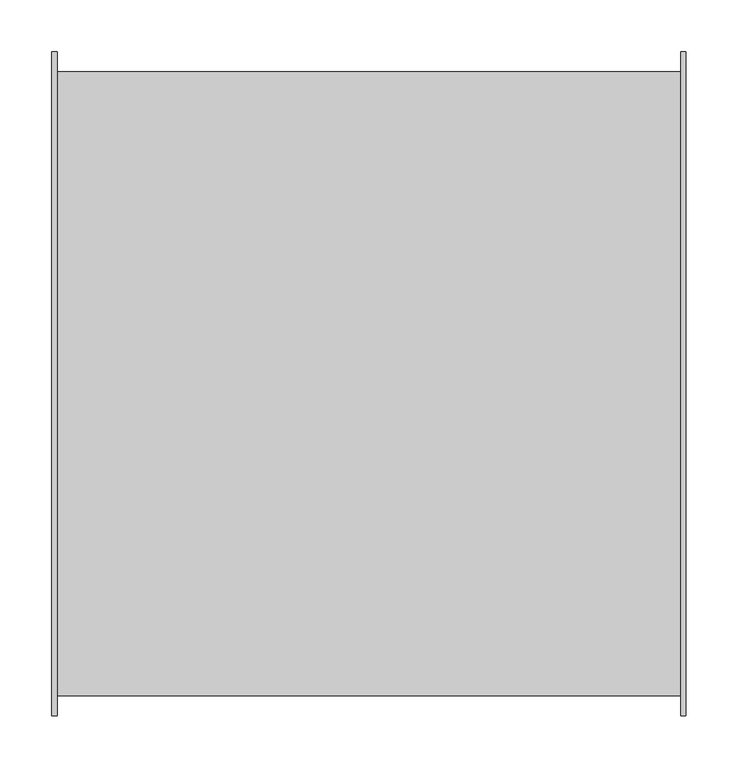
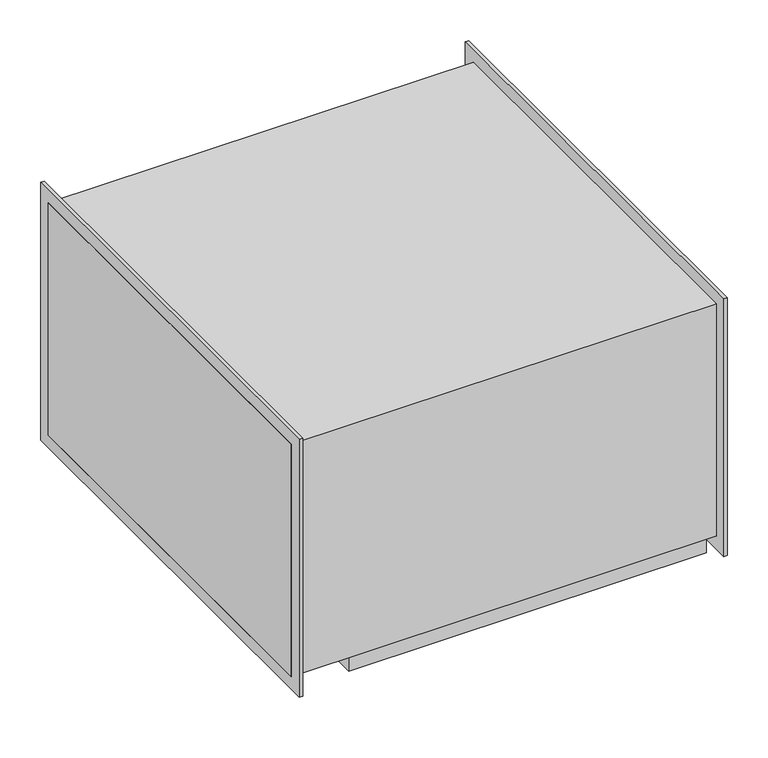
"""IFC4 building model written with IfcOpenShell, lengths in millimetres: unitary equipment geometry, VE-Wentylator-ParaForma-Harmann-DRB-Nawiewny : 060/35/3000S."""

from ifc_helpers import new_model, si_unit, point, frame, frame_2d, origin, place, context, project, spatial, polyline, circle_curve, trimmed, segment, composite_curve, outline, extrude, faceted_brep, source, transform, mapped, element, save
from ifc_brep_helpers import plane_surface, revolved_surface, advanced_brep


def unitary_equipment_a265e7f2(model_context):
    return source(origin(), model_context, "Body", "SolidModel", [
        faceted_brep([(-213.5, -282.9, -209.0), (-213.5, -282.9, -175.0), (-213.5, 197.1, -175.0), (-213.5, 197.1, -209.0), (295.5, -282.9, -209.0), (295.5, 197.1, -209.0), (295.5, 197.1, -175.0), (295.5, -282.9, -175.0), (-208.5, 192.1, -209.0), (-208.5, -277.9, -209.0), (290.5, -277.9, -209.0), (290.5, 192.1, -209.0), (-208.5, 192.1, -175.0), (-208.5, -277.9, -175.0), (290.5, -277.9, -175.0), (290.5, 192.1, -175.0), (-305.0, -300.0, 175.0), (-305.0, -300.0, -175.0), (305.0, -300.0, -175.0), (305.0, -300.0, 175.0), (-305.0, 300.0, 175.0), (305.0, 300.0, 175.0), (-305.0, 300.0, -175.0), (305.0, 300.0, -175.0)], [[[0, 1, 2, 3]], [[4, 5, 6, 7]], [[1, 0, 4, 7]], [[3, 2, 6, 5]], [[0, 3, 5, 4], [8, 9, 10, 11]], [[8, 12, 13, 9]], [[10, 14, 15, 11]], [[9, 13, 14, 10]], [[12, 8, 11, 15]], [[16, 17, 18, 19]], [[20, 16, 19, 21]], [[22, 20, 21, 23]], [[13, 12, 15, 14]], [[18, 17, 22, 23], [2, 1, 7, 6]], [[17, 16, 20, 22]], [[18, 23, 21, 19]]]),
        extrude(outline(polyline([(-319.2, -194.2), (-319.2, 194.2), (319.2, 194.2), (319.2, -194.2), (-319.2, -194.2)]), holes=[polyline([(-300.0, -175.0), (300.0, -175.0), (300.0, 175.0), (-300.0, 175.0), (-300.0, -175.0)])]), frame((300.0, 0.0, 0.0), z_axis=(1.0, 0.0, 0.0), x_axis=(0.0, 1.0, 0.0)), (0.0, 0.0, 1.0), 5.0),
        extrude(outline(polyline([(-319.2, -194.2), (-319.2, 194.2), (319.2, 194.2), (319.2, -194.2), (-319.2, -194.2)]), holes=[polyline([(-300.0, -175.0), (300.0, -175.0), (300.0, 175.0), (-300.0, 175.0), (-300.0, -175.0)])]), frame((-305.0, 0.0, 0.0), z_axis=(1.0, 0.0, 0.0), x_axis=(0.0, 1.0, 0.0)), (0.0, 0.0, 1.0), 5.0),
        extrude(outline(composite_curve([segment(polyline([(77.5, 77.4), (-22.5, 77.4)]), True, "CONTINUOUS"), segment(trimmed(circle_curve(frame_2d((-22.5, 82.4)), 5.0), [point((-22.5, 77.4))], [point((-27.5, 82.4))], False, "CARTESIAN"), True, "CONTINUOUS"), segment(polyline([(-27.5, 82.4), (-27.5, 167.4)]), True, "CONTINUOUS"), segment(trimmed(circle_curve(frame_2d((-22.5, 167.4)), 5.0), [point((-27.5, 167.4))], [point((-22.5, 172.4))], False, "CARTESIAN"), True, "CONTINUOUS"), segment(polyline([(-22.5, 172.4), (77.5, 172.4)]), True, "CONTINUOUS"), segment(trimmed(circle_curve(frame_2d((77.5, 167.4)), 5.0), [point((77.5, 172.4))], [point((82.5, 167.4))], False, "CARTESIAN"), True, "CONTINUOUS"), segment(polyline([(82.5, 167.4), (82.5, 82.4)]), True, "CONTINUOUS"), segment(trimmed(circle_curve(frame_2d((77.5, 82.4)), 5.0), [point((82.5, 82.4))], [point((77.5, 77.4))], False, "CARTESIAN"), True, "CONTINUOUS")], self_intersect=False)), frame((0.0, 0.0, -224.5), z_axis=(0.0, 0.0, 1.0), x_axis=(1.0, 0.0, 0.0)), (0.0, 0.0, 1.0), 49.5),
        advanced_brep(
        [(27.5, -80.65, -190.0), (27.5, -5.15, -190.0), (27.5, -93.3, -175.0), (27.5, 7.5, -175.0)],
        [
            (0, 1, circle_curve(frame((27.5, -42.9, -190.0), z_axis=(0.0, 0.0, -1.0), x_axis=(0.0, -1.0, 0.0)), 37.75)),
            (1, 0, circle_curve(frame((27.5, -42.9, -190.0), z_axis=(0.0, 0.0, -1.0), x_axis=(0.0, 1.0, 0.0)), 37.75)),
            (2, 3, circle_curve(frame((27.5, -42.9, -175.0), z_axis=(0.0, 0.0, 1.0), x_axis=(0.0, 1.0, 0.0)), 50.4)),
            (3, 2, circle_curve(frame((27.5, -42.9, -175.0), z_axis=(0.0, 0.0, 1.0), x_axis=(0.0, -1.0, 0.0)), 50.4)),
            (3, 1),
            (0, 2),
        ],
        [
            plane_surface(frame((27.5, -42.9, -190.0), z_axis=(0.0, 0.0, -1.0), x_axis=(-1.0, 0.0, 0.0))),
            plane_surface(frame((27.5, -42.9, -175.0), z_axis=(0.0, 0.0, 1.0), x_axis=(-1.0, 0.0, 0.0))),
            revolved_surface(polyline([(27.5, -80.64999998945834, -190.0), (27.5, -93.3, -175.0)]), (27.5, -42.9, -234.7628458), (0.0, 0.0, 1.0)),
            revolved_surface(polyline([(27.5, -5.1500000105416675, -190.0), (27.5, 7.5, -175.0)]), (27.5, -42.9, -234.7628458), (0.0, 0.0, 1.0)),
        ],
        [
            (0, [[1, 2]]),
            (1, [[3, 4]]),
            (2, [[-4, 5, -1, 6]]),
            (3, [[-3, -6, -2, -5]]),
        ],
    ),
    ])


if __name__ == "__main__":
    model = new_model("IFC4")
    model_context = context("Model", 3, world=origin())
    ifc_project = project(units=[si_unit("LENGTHUNIT", "METRE", prefix="MILLI")], contexts=[model_context])
    site = spatial("IfcSite", under=ifc_project)
    building = spatial("IfcBuilding", under=site)
    placement = place(None, origin())
    unitary_equipment_shape = unitary_equipment_a265e7f2(model_context)
    element("IfcUnitaryEquipment", 1, ObjectType="VE-Wentylator-ParaForma-Harmann-DRB-Nawiewny : 060/35/3000S", at=placement, inside=building, context=model_context, shape_type="MappedRepresentation", body=[
        mapped(unitary_equipment_shape, transform((0.0, 0.0, 0.0), x_axis=(1.0, 0.0, 0.0), y_axis=(0.0, 1.0, 0.0), z_axis=(0.0, 0.0, 1.0))),
    ])
    save(model, "model.ifc")
